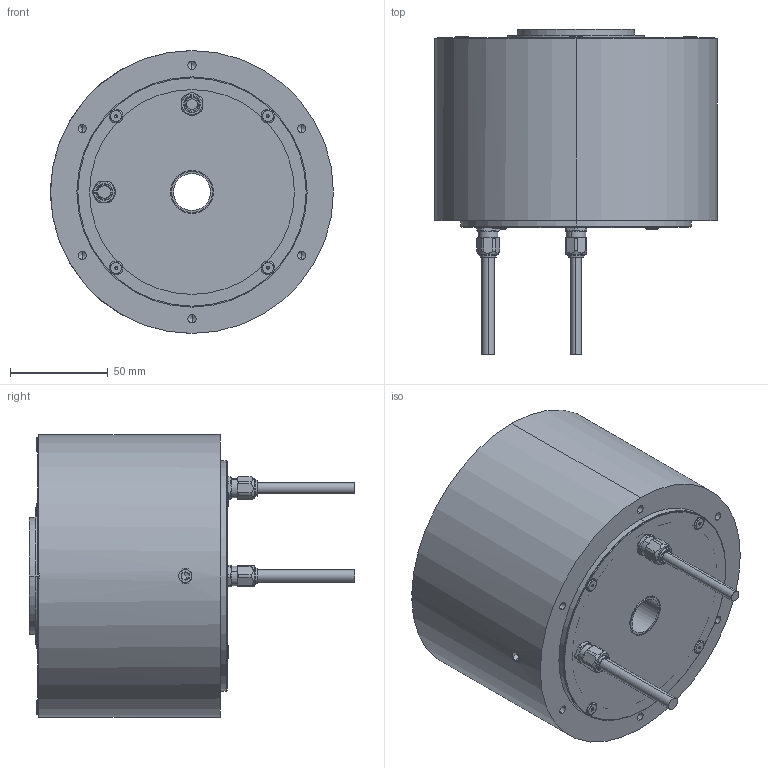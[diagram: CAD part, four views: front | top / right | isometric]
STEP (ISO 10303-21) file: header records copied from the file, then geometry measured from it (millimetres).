
FILE_DESCRIPTION (( 'STEP AP214' ), '1' );
FILE_NAME ('BZA01540.step', '2024-02-05T02:30:23', ( '' ), ( '' ), 'SwSTEP 2.0', 'SolidWorks 2023', '' );
FILE_SCHEMA (( 'AUTOMOTIVE_DESIGN' ));
Length unit declared in the file: millimetre
Products named in the file (1): BZA01540
Bounding box: 145 x 166.8 x 145 mm (x, y, z)
Volume: 273525.5 mm3; surface area: 182058.8 mm2
Topology: 19 solids, 19 shells, 602 faces, 1508 edges, 940 vertices
Faces by surface type: cylinder 353, cone 112, plane 105, torus 22, sphere 10
Entity records: 19221 total; most frequent: CARTESIAN_POINT 4647, DIRECTION 3110, ORIENTED_EDGE 2908, EDGE_CURVE 1454, AXIS2_PLACEMENT_3D 1287, VERTEX_POINT 940, EDGE_LOOP 710, CIRCLE 684
